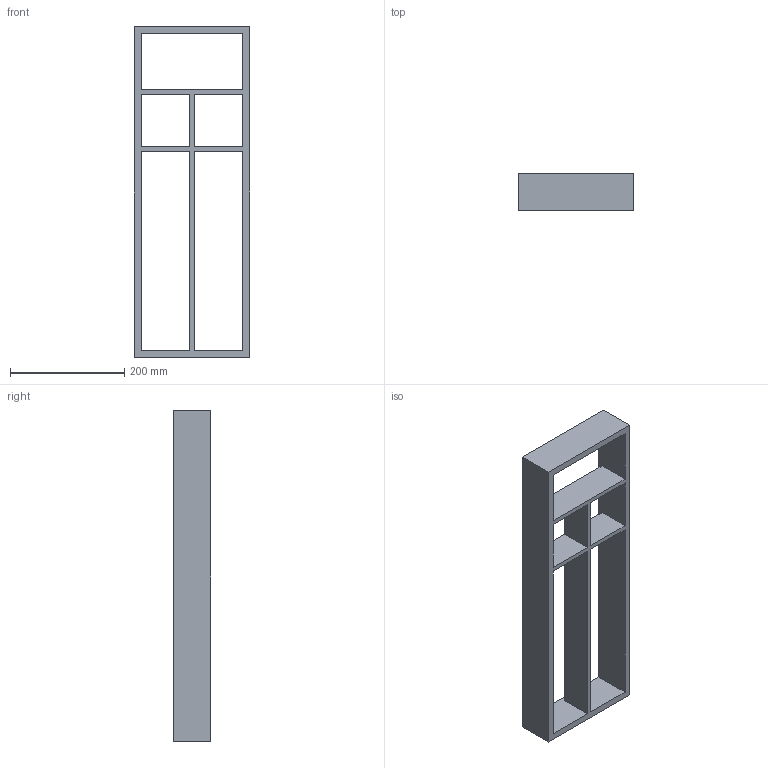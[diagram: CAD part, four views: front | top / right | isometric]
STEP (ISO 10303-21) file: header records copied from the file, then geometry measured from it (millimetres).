
FILE_DESCRIPTION (( 'STEP AP214' ), '1' );
FILE_NAME ('Vario Besteck NL600_B300_19 mm_Buche.step', '2010-11-04T08:33:25', ( 'grass' ), ( '' ), 'SwSTEP 2.0', 'SolidWorks 2010', '' );
FILE_SCHEMA (( 'AUTOMOTIVE_DESIGN' ));
Length unit declared in the file: millimetre
Products named in the file (1): Vario Besteck NL600_B300_19 mm_Buche
Bounding box: 202 x 65 x 579 mm (x, y, z)
Volume: 1544352 mm3; surface area: 333118 mm2
Topology: 1 solids, 1 shells, 22 faces, 72 edges, 48 vertices
Faces by surface type: plane 22
Entity records: 830 total; most frequent: ORIENTED_EDGE 144, CARTESIAN_POINT 143, DIRECTION 118, EDGE_CURVE 72, VECTOR 72, LINE 72, VERTEX_POINT 48, EDGE_LOOP 28
